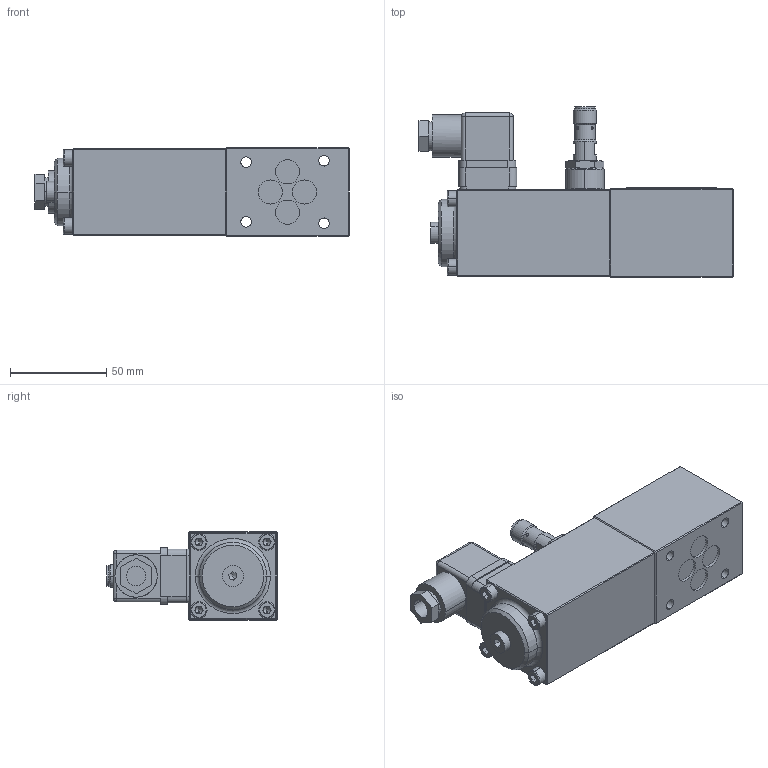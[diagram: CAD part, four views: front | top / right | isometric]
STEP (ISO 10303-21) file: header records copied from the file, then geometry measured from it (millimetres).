
FILE_DESCRIPTION (( 'STEP AP214' ), '1' );
FILE_NAME ('A.22061a-P1a.STEP', '2022-09-23T09:14:24', ( '' ), ( '' ), 'SwSTEP 2.0', 'SolidWorks 2020', '' );
FILE_SCHEMA (( 'AUTOMOTIVE_DESIGN' ));
Length unit declared in the file: millimetre
Products named in the file (1): A.22061a-P1a
Bounding box: 163.2 x 88.5 x 46 mm (x, y, z)
Volume: 343607.1 mm3; surface area: 44487.8 mm2
Topology: 1 solids, 2 shells, 383 faces, 895 edges, 544 vertices
Faces by surface type: plane 217, cylinder 88, cone 42, bspline 24, torus 12
Entity records: 15703 total; most frequent: CARTESIAN_POINT 2883, DIRECTION 1820, ORIENTED_EDGE 1762, EDGE_CURVE 881, AXIS2_PLACEMENT_3D 645, VERTEX_POINT 544, VECTOR 530, LINE 530
